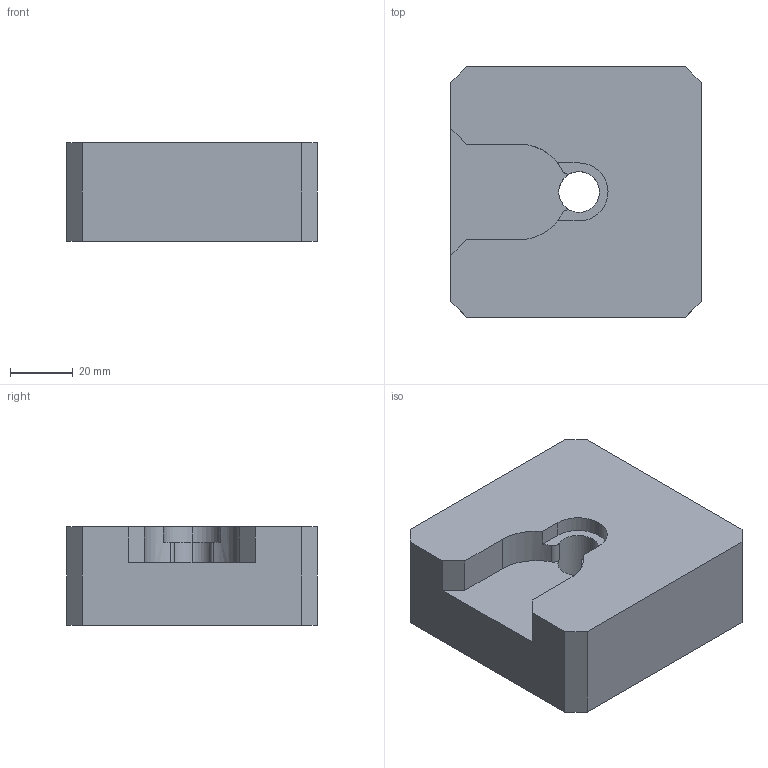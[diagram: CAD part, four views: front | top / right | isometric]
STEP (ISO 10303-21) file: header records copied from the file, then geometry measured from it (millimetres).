
FILE_DESCRIPTION(('CATIA V5 STEP Exchange'),'2;1');
FILE_NAME('C:\Users\hh\Desktop\补偿气缸扩孔\LS240502_V2.stp','2024-05-10T06:43:12+00:00',('none'),('none'),'CATIA Version 5 Release 21 GA (IN-10)','CATIA V5 STEP AP214','none');
FILE_SCHEMA(('AUTOMOTIVE_DESIGN { 1 0 10303 214 1 1 1 1 }'));
Length unit declared in the file: millimetre
Products named in the file (1): Part3
Bounding box: 80 x 80 x 31.5 mm (x, y, z)
Volume: 183292.2 mm3; surface area: 23833.3 mm2
Topology: 1 solids, 1 shells, 26 faces, 87 edges, 62 vertices
Faces by surface type: plane 18, cylinder 8
Entity records: 958 total; most frequent: ORIENTED_EDGE 174, CARTESIAN_POINT 173, DIRECTION 133, EDGE_CURVE 87, VERTEX_POINT 62, AXIS2_PLACEMENT_3D 56, VECTOR 55, LINE 55
